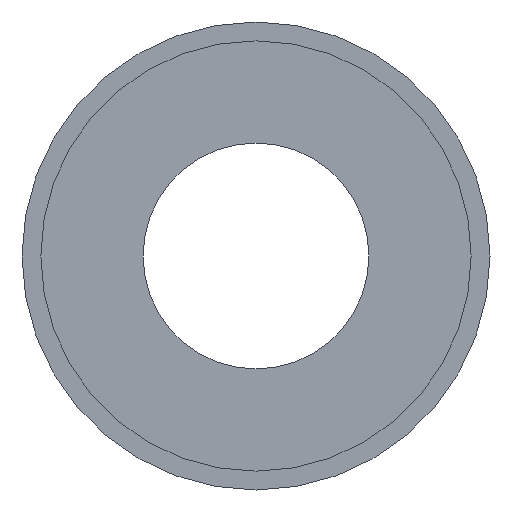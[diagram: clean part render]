
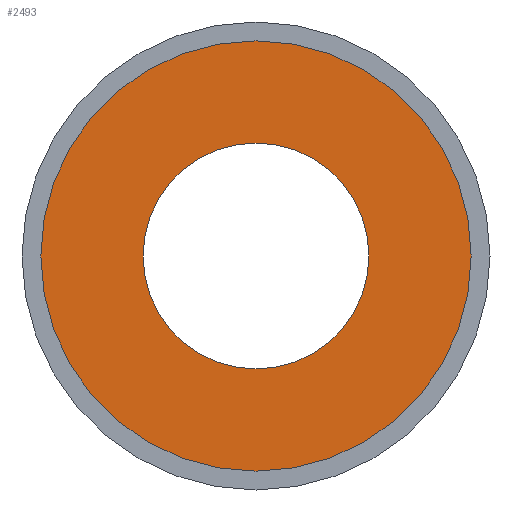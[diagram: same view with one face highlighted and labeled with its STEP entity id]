
A CAD part, front view. The second image highlights one B-rep face of the part: STEP entity #2493.
In plain terms, the highlighted planar face has unit normal (0, -1, 0).
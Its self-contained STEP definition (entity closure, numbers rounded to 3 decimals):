
#17 = DIRECTION ( 'NONE',  ( 0., 1., 0. ) ) ;
#487 = CARTESIAN_POINT ( 'NONE',  ( 0., -16.5, 21. ) ) ;
#513 = AXIS2_PLACEMENT_3D ( 'NONE', #959, #915, #1677 ) ;
#563 = ORIENTED_EDGE ( 'NONE', *, *, #1135, .T. ) ;
#579 = CIRCLE ( 'NONE', #1661, 21. ) ;
#821 = VERTEX_POINT ( 'NONE', #2991 ) ;
#915 = DIRECTION ( 'NONE',  ( 0., -1., 0. ) ) ;
#959 = CARTESIAN_POINT ( 'NONE',  ( 0., -16.5, 0. ) ) ;
#1031 = CARTESIAN_POINT ( 'NONE',  ( 0., -16.5, 0. ) ) ;
#1037 = DIRECTION ( 'NONE',  ( 0., 0., 1. ) ) ;
#1045 = DIRECTION ( 'NONE',  ( 0., -1., 0. ) ) ;
#1135 = EDGE_CURVE ( 'NONE', #1473, #1962, #2781, .T. ) ;
#1341 = AXIS2_PLACEMENT_3D ( 'NONE', #487, #17, #1037 ) ;
#1372 = DIRECTION ( 'NONE',  ( 0., 0., -1. ) ) ;
#1473 = VERTEX_POINT ( 'NONE', #3111 ) ;
#1488 = VERTEX_POINT ( 'NONE', #1537 ) ;
#1491 = DIRECTION ( 'NONE',  ( 0., 0., -1. ) ) ;
#1537 = CARTESIAN_POINT ( 'NONE',  ( 0., -16.5, 21. ) ) ;
#1661 = AXIS2_PLACEMENT_3D ( 'NONE', #3288, #3305, #1491 ) ;
#1677 = DIRECTION ( 'NONE',  ( 0., 0., -1. ) ) ;
#1834 = EDGE_LOOP ( 'NONE', ( #3048, #2430 ) ) ;
#1840 = EDGE_CURVE ( 'NONE', #1488, #821, #2618, .T. ) ;
#1859 = EDGE_CURVE ( 'NONE', #821, #1488, #579, .T. ) ;
#1860 = CARTESIAN_POINT ( 'NONE',  ( 0., -16.5, 0. ) ) ;
#1867 = ORIENTED_EDGE ( 'NONE', *, *, #2681, .T. ) ;
#1962 = VERTEX_POINT ( 'NONE', #3059 ) ;
#2031 = PLANE ( 'NONE',  #1341 ) ;
#2062 = FACE_BOUND ( 'NONE', #1834, .T. ) ;
#2294 = AXIS2_PLACEMENT_3D ( 'NONE', #1031, #1045, #2805 ) ;
#2295 = FACE_OUTER_BOUND ( 'NONE', #3256, .T. ) ;
#2430 = ORIENTED_EDGE ( 'NONE', *, *, #1840, .F. ) ;
#2493 = ADVANCED_FACE ( 'NONE', ( #2062, #2295 ), #2031, .F. ) ;
#2618 = CIRCLE ( 'NONE', #513, 21. ) ;
#2681 = EDGE_CURVE ( 'NONE', #1962, #1473, #3214, .T. ) ;
#2760 = AXIS2_PLACEMENT_3D ( 'NONE', #1860, #3222, #1372 ) ;
#2781 = CIRCLE ( 'NONE', #2294, 40. ) ;
#2805 = DIRECTION ( 'NONE',  ( 0., 0., -1. ) ) ;
#2991 = CARTESIAN_POINT ( 'NONE',  ( 0., -16.5, -21. ) ) ;
#3048 = ORIENTED_EDGE ( 'NONE', *, *, #1859, .F. ) ;
#3059 = CARTESIAN_POINT ( 'NONE',  ( 0., -16.5, 40. ) ) ;
#3111 = CARTESIAN_POINT ( 'NONE',  ( 0., -16.5, -40. ) ) ;
#3214 = CIRCLE ( 'NONE', #2760, 40. ) ;
#3222 = DIRECTION ( 'NONE',  ( 0., -1., 0. ) ) ;
#3256 = EDGE_LOOP ( 'NONE', ( #563, #1867 ) ) ;
#3288 = CARTESIAN_POINT ( 'NONE',  ( 0., -16.5, 0. ) ) ;
#3305 = DIRECTION ( 'NONE',  ( 0., -1., 0. ) ) ;
